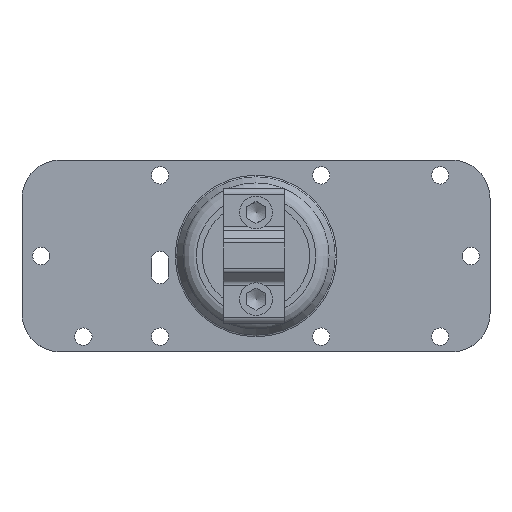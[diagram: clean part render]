
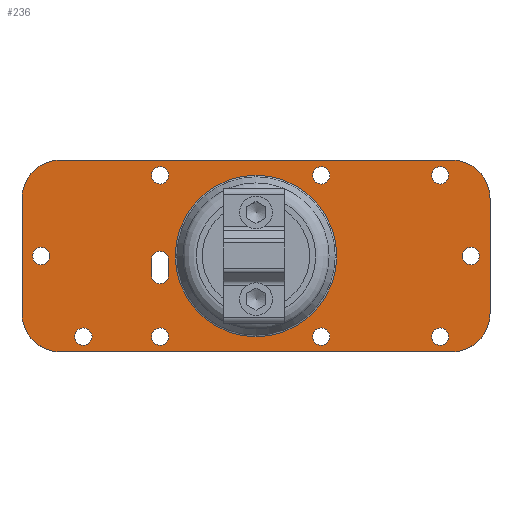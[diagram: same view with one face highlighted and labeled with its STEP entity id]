
A CAD part, top view. The second image highlights one B-rep face of the part: STEP entity #236.
In plain terms, the highlighted planar face has unit normal (0, 0, 1).
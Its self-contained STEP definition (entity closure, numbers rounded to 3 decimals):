
#236=ADVANCED_FACE('',(#371,#372,#373,#374,#375,#376,#377,#378,#379,#380,
#381,#382),#323,.F.);
#323=PLANE('',#1667);
#371=FACE_BOUND('',#476,.T.);
#372=FACE_BOUND('',#477,.T.);
#373=FACE_BOUND('',#478,.T.);
#374=FACE_BOUND('',#479,.T.);
#375=FACE_BOUND('',#480,.T.);
#376=FACE_BOUND('',#481,.T.);
#377=FACE_BOUND('',#482,.T.);
#378=FACE_BOUND('',#483,.T.);
#379=FACE_BOUND('',#484,.T.);
#380=FACE_BOUND('',#485,.T.);
#381=FACE_BOUND('',#486,.T.);
#382=FACE_BOUND('',#487,.T.);
#476=EDGE_LOOP('',(#728,#729,#730,#731));
#477=EDGE_LOOP('',(#732));
#478=EDGE_LOOP('',(#733));
#479=EDGE_LOOP('',(#734));
#480=EDGE_LOOP('',(#735));
#481=EDGE_LOOP('',(#736));
#482=EDGE_LOOP('',(#737));
#483=EDGE_LOOP('',(#738,#739,#740,#741,#742,#743,#744,#745));
#484=EDGE_LOOP('',(#746));
#485=EDGE_LOOP('',(#747));
#486=EDGE_LOOP('',(#748));
#487=EDGE_LOOP('',(#749));
#630=CIRCLE('',#1651,2.25);
#631=CIRCLE('',#1652,2.25);
#632=CIRCLE('',#1653,2.25);
#633=CIRCLE('',#1654,2.25);
#634=CIRCLE('',#1655,2.25);
#635=CIRCLE('',#1656,2.25);
#636=CIRCLE('',#1657,2.25);
#637=CIRCLE('',#1658,2.25);
#638=CIRCLE('',#1659,10.);
#639=CIRCLE('',#1660,10.);
#640=CIRCLE('',#1661,10.);
#641=CIRCLE('',#1662,10.);
#642=CIRCLE('',#1663,21.052);
#643=CIRCLE('',#1664,2.25);
#644=CIRCLE('',#1665,2.25);
#645=CIRCLE('',#1666,2.25);
#728=ORIENTED_EDGE('',*,*,#1267,.F.);
#729=ORIENTED_EDGE('',*,*,#1268,.F.);
#730=ORIENTED_EDGE('',*,*,#1269,.F.);
#731=ORIENTED_EDGE('',*,*,#1270,.F.);
#732=ORIENTED_EDGE('',*,*,#1271,.T.);
#733=ORIENTED_EDGE('',*,*,#1272,.T.);
#734=ORIENTED_EDGE('',*,*,#1273,.T.);
#735=ORIENTED_EDGE('',*,*,#1274,.T.);
#736=ORIENTED_EDGE('',*,*,#1275,.F.);
#737=ORIENTED_EDGE('',*,*,#1276,.F.);
#738=ORIENTED_EDGE('',*,*,#1277,.F.);
#739=ORIENTED_EDGE('',*,*,#1278,.T.);
#740=ORIENTED_EDGE('',*,*,#1279,.F.);
#741=ORIENTED_EDGE('',*,*,#1280,.T.);
#742=ORIENTED_EDGE('',*,*,#1281,.F.);
#743=ORIENTED_EDGE('',*,*,#1282,.T.);
#744=ORIENTED_EDGE('',*,*,#1283,.F.);
#745=ORIENTED_EDGE('',*,*,#1284,.T.);
#746=ORIENTED_EDGE('',*,*,#1285,.T.);
#747=ORIENTED_EDGE('',*,*,#1286,.F.);
#748=ORIENTED_EDGE('',*,*,#1287,.F.);
#749=ORIENTED_EDGE('',*,*,#1288,.F.);
#1120=VERTEX_POINT('',#2331);
#1121=VERTEX_POINT('',#2332);
#1122=VERTEX_POINT('',#2334);
#1123=VERTEX_POINT('',#2336);
#1124=VERTEX_POINT('',#2339);
#1125=VERTEX_POINT('',#2341);
#1126=VERTEX_POINT('',#2343);
#1127=VERTEX_POINT('',#2345);
#1128=VERTEX_POINT('',#2347);
#1129=VERTEX_POINT('',#2349);
#1130=VERTEX_POINT('',#2351);
#1131=VERTEX_POINT('',#2352);
#1132=VERTEX_POINT('',#2354);
#1133=VERTEX_POINT('',#2356);
#1134=VERTEX_POINT('',#2358);
#1135=VERTEX_POINT('',#2360);
#1136=VERTEX_POINT('',#2362);
#1137=VERTEX_POINT('',#2364);
#1138=VERTEX_POINT('',#2367);
#1139=VERTEX_POINT('',#2369);
#1140=VERTEX_POINT('',#2371);
#1141=VERTEX_POINT('',#2373);
#1267=EDGE_CURVE('',#1120,#1121,#630,.T.);
#1268=EDGE_CURVE('',#1122,#1120,#1447,.T.);
#1269=EDGE_CURVE('',#1123,#1122,#631,.T.);
#1270=EDGE_CURVE('',#1121,#1123,#1448,.T.);
#1271=EDGE_CURVE('',#1124,#1124,#632,.T.);
#1272=EDGE_CURVE('',#1125,#1125,#633,.T.);
#1273=EDGE_CURVE('',#1126,#1126,#634,.T.);
#1274=EDGE_CURVE('',#1127,#1127,#635,.T.);
#1275=EDGE_CURVE('',#1128,#1128,#636,.T.);
#1276=EDGE_CURVE('',#1129,#1129,#637,.T.);
#1277=EDGE_CURVE('',#1130,#1131,#1449,.T.);
#1278=EDGE_CURVE('',#1130,#1132,#638,.T.);
#1279=EDGE_CURVE('',#1133,#1132,#1450,.T.);
#1280=EDGE_CURVE('',#1133,#1134,#639,.T.);
#1281=EDGE_CURVE('',#1135,#1134,#1451,.T.);
#1282=EDGE_CURVE('',#1135,#1136,#640,.T.);
#1283=EDGE_CURVE('',#1137,#1136,#1452,.T.);
#1284=EDGE_CURVE('',#1137,#1131,#641,.T.);
#1285=EDGE_CURVE('',#1138,#1138,#642,.T.);
#1286=EDGE_CURVE('',#1139,#1139,#643,.T.);
#1287=EDGE_CURVE('',#1140,#1140,#644,.T.);
#1288=EDGE_CURVE('',#1141,#1141,#645,.T.);
#1447=LINE('',#2333,#1543);
#1448=LINE('',#2337,#1544);
#1449=LINE('',#2350,#1545);
#1450=LINE('',#2355,#1546);
#1451=LINE('',#2359,#1547);
#1452=LINE('',#2363,#1548);
#1543=VECTOR('',#1862,1.);
#1544=VECTOR('',#1865,1.);
#1545=VECTOR('',#1878,1.);
#1546=VECTOR('',#1881,1.);
#1547=VECTOR('',#1884,1.);
#1548=VECTOR('',#1887,1.);
#1651=AXIS2_PLACEMENT_3D('',#2330,#1860,#1861);
#1652=AXIS2_PLACEMENT_3D('',#2335,#1863,#1864);
#1653=AXIS2_PLACEMENT_3D('',#2338,#1866,#1867);
#1654=AXIS2_PLACEMENT_3D('',#2340,#1868,#1869);
#1655=AXIS2_PLACEMENT_3D('',#2342,#1870,#1871);
#1656=AXIS2_PLACEMENT_3D('',#2344,#1872,#1873);
#1657=AXIS2_PLACEMENT_3D('',#2346,#1874,#1875);
#1658=AXIS2_PLACEMENT_3D('',#2348,#1876,#1877);
#1659=AXIS2_PLACEMENT_3D('',#2353,#1879,#1880);
#1660=AXIS2_PLACEMENT_3D('',#2357,#1882,#1883);
#1661=AXIS2_PLACEMENT_3D('',#2361,#1885,#1886);
#1662=AXIS2_PLACEMENT_3D('',#2365,#1888,#1889);
#1663=AXIS2_PLACEMENT_3D('',#2366,#1890,#1891);
#1664=AXIS2_PLACEMENT_3D('',#2368,#1892,#1893);
#1665=AXIS2_PLACEMENT_3D('',#2370,#1894,#1895);
#1666=AXIS2_PLACEMENT_3D('',#2372,#1896,#1897);
#1667=AXIS2_PLACEMENT_3D('',#2374,#1898,#1899);
#1860=DIRECTION('',(0.,0.,1.));
#1861=DIRECTION('',(1.,0.,0.));
#1862=DIRECTION('',(-1.,0.,0.));
#1863=DIRECTION('',(0.,0.,1.));
#1864=DIRECTION('',(1.,0.,0.));
#1865=DIRECTION('',(1.,0.,0.));
#1866=DIRECTION('',(0.,0.,-1.));
#1867=DIRECTION('',(-1.,0.,0.));
#1868=DIRECTION('',(0.,0.,-1.));
#1869=DIRECTION('',(-1.,0.,0.));
#1870=DIRECTION('',(0.,0.,-1.));
#1871=DIRECTION('',(-1.,0.,0.));
#1872=DIRECTION('',(0.,0.,-1.));
#1873=DIRECTION('',(1.,0.,0.));
#1874=DIRECTION('',(0.,0.,1.));
#1875=DIRECTION('',(1.,0.,0.));
#1876=DIRECTION('',(0.,0.,1.));
#1877=DIRECTION('',(1.,0.,0.));
#1878=DIRECTION('',(0.,-1.,0.));
#1879=DIRECTION('',(0.,0.,1.));
#1880=DIRECTION('',(-1.,0.,0.));
#1881=DIRECTION('',(1.,0.,0.));
#1882=DIRECTION('',(0.,0.,1.));
#1883=DIRECTION('',(-1.,0.,0.));
#1884=DIRECTION('',(0.,1.,0.));
#1885=DIRECTION('',(0.,0.,1.));
#1886=DIRECTION('',(-1.,0.,0.));
#1887=DIRECTION('',(-1.,0.,0.));
#1888=DIRECTION('',(0.,0.,1.));
#1889=DIRECTION('',(-1.,0.,0.));
#1890=DIRECTION('',(0.,0.,-1.));
#1891=DIRECTION('',(-1.,0.,0.));
#1892=DIRECTION('',(0.,0.,1.));
#1893=DIRECTION('',(1.,0.,0.));
#1894=DIRECTION('',(0.,0.,1.));
#1895=DIRECTION('',(1.,0.,0.));
#1896=DIRECTION('',(0.,0.,1.));
#1897=DIRECTION('',(1.,0.,0.));
#1898=DIRECTION('',(0.,0.,-1.));
#1899=DIRECTION('',(-1.,0.,0.));
#2330=CARTESIAN_POINT('',(1.,-25.,1.5));
#2331=CARTESIAN_POINT('',(1.,-22.75,1.5));
#2332=CARTESIAN_POINT('',(1.,-27.25,1.5));
#2333=CARTESIAN_POINT('',(5.,-22.75,1.5));
#2334=CARTESIAN_POINT('',(5.,-22.75,1.5));
#2335=CARTESIAN_POINT('',(5.,-25.,1.5));
#2336=CARTESIAN_POINT('',(5.,-27.25,1.5));
#2337=CARTESIAN_POINT('',(1.,-27.25,1.5));
#2338=CARTESIAN_POINT('',(21.,48.,1.5));
#2339=CARTESIAN_POINT('',(18.75,48.,1.5));
#2340=CARTESIAN_POINT('',(-21.,48.,1.5));
#2341=CARTESIAN_POINT('',(-23.25,48.,1.5));
#2342=CARTESIAN_POINT('',(21.,-45.,1.5));
#2343=CARTESIAN_POINT('',(18.75,-45.,1.5));
#2344=CARTESIAN_POINT('',(0.,56.,1.5));
#2345=CARTESIAN_POINT('',(2.25,56.,1.5));
#2346=CARTESIAN_POINT('',(-21.,17.,1.5));
#2347=CARTESIAN_POINT('',(-18.75,17.,1.5));
#2348=CARTESIAN_POINT('',(21.,-25.,1.5));
#2349=CARTESIAN_POINT('',(23.25,-25.,1.5));
#2350=CARTESIAN_POINT('',(25.,61.,1.5));
#2351=CARTESIAN_POINT('',(25.,51.,1.5));
#2352=CARTESIAN_POINT('',(25.,-51.,1.5));
#2353=CARTESIAN_POINT('',(15.,51.,1.5));
#2354=CARTESIAN_POINT('',(15.,61.,1.5));
#2355=CARTESIAN_POINT('',(-25.,61.,1.5));
#2356=CARTESIAN_POINT('',(-15.,61.,1.5));
#2357=CARTESIAN_POINT('',(-15.,51.,1.5));
#2358=CARTESIAN_POINT('',(-25.,51.,1.5));
#2359=CARTESIAN_POINT('',(-25.,-61.,1.5));
#2360=CARTESIAN_POINT('',(-25.,-51.,1.5));
#2361=CARTESIAN_POINT('',(-15.,-51.,1.5));
#2362=CARTESIAN_POINT('',(-15.,-61.,1.5));
#2363=CARTESIAN_POINT('',(25.,-61.,1.5));
#2364=CARTESIAN_POINT('',(15.,-61.,1.5));
#2365=CARTESIAN_POINT('',(15.,-51.,1.5));
#2366=CARTESIAN_POINT('',(0.,0.,1.5));
#2367=CARTESIAN_POINT('',(-21.052,0.,1.5));
#2368=CARTESIAN_POINT('',(21.,17.,1.5));
#2369=CARTESIAN_POINT('',(23.25,17.,1.5));
#2370=CARTESIAN_POINT('',(-21.,-25.,1.5));
#2371=CARTESIAN_POINT('',(-18.75,-25.,1.5));
#2372=CARTESIAN_POINT('',(0.,-56.,1.5));
#2373=CARTESIAN_POINT('',(2.25,-56.,1.5));
#2374=CARTESIAN_POINT('',(0.,0.,1.5));
